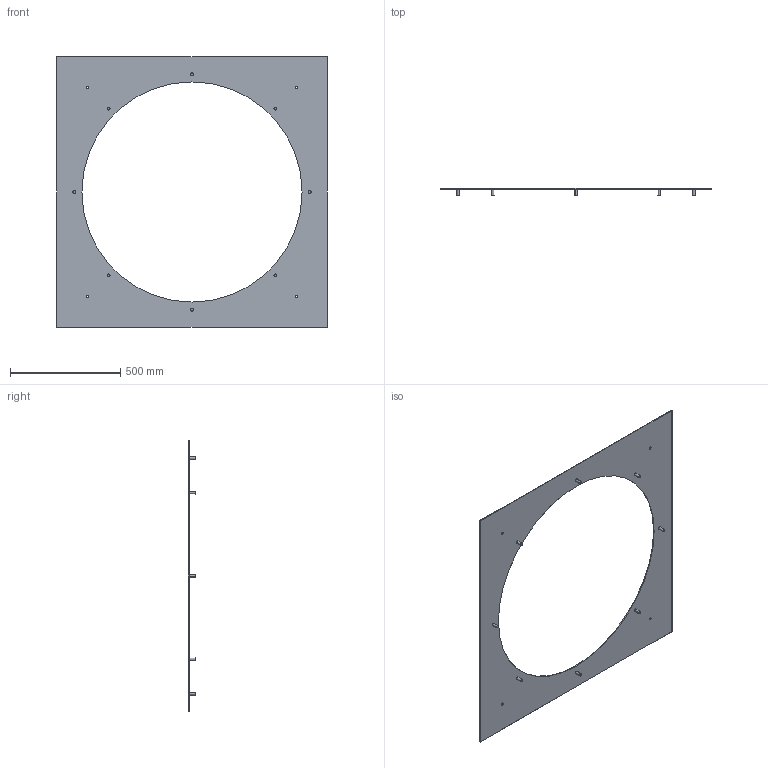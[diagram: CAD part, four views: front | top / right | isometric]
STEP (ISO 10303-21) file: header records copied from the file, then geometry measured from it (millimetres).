
FILE_DESCRIPTION(('STEP AP214'),'1');
FILE_NAME('accessory_5136828000.stp','2017-10-10T13:29:01',('TraceParts'),('TraceParts S.A.'),'Spatial InterOp 3D',' ',' ');
FILE_SCHEMA(('automotive_design'));
Length unit declared in the file: millimetre
Products named in the file (1): accessory_5136828000
Bounding box: 1230 x 32 x 1230 mm (x, y, z)
Volume: 2934084.5 mm3; surface area: 1495569 mm2
Topology: 1 solids, 1 shells, 40 faces, 90 edges, 60 vertices
Faces by surface type: cylinder 26, plane 14
Entity records: 1502 total; most frequent: DIRECTION 224, CARTESIAN_POINT 191, ORIENTED_EDGE 180, AXIS2_PLACEMENT_3D 93, EDGE_CURVE 90, VERTEX_POINT 60, EDGE_LOOP 58, CIRCLE 52
